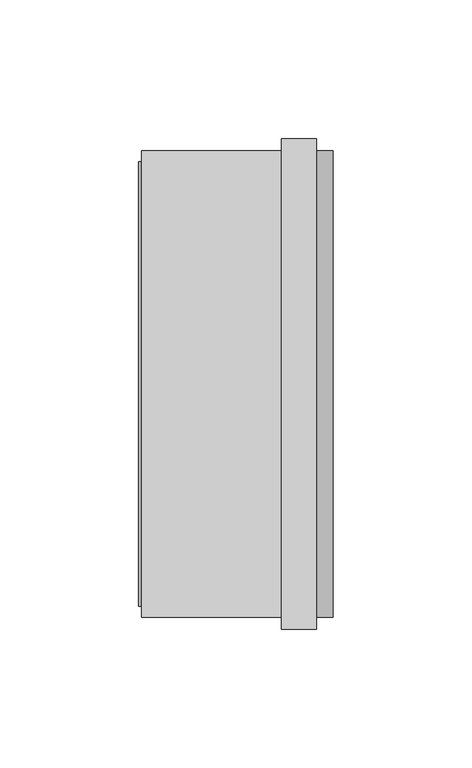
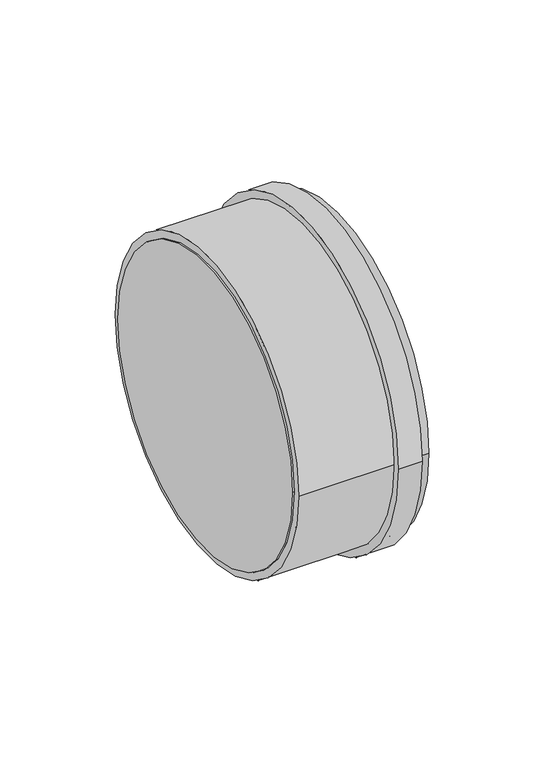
"""IFC4 building model written with IfcOpenShell, lengths in millimetres: pipe fitting geometry, Superdrain SKM-Plug : Superdrain SKM-Plug."""

from ifc_helpers import new_model, si_unit, point, frame, origin, origin_2d, place, context, project, spatial, polyline, circle_curve, trimmed, segment, composite_curve, outline, extrude, source, transform, mapped, element, save
from ifc_brep_helpers import plane_surface, cylinder_surface, revolved_surface, advanced_brep


def pipe_fitting_11ed9a3a(model_context):
    return source(origin(), model_context, "Body", "SolidModel", [
        extrude(outline(composite_curve([segment(trimmed(circle_curve(origin_2d(), 84.0), [point((84.0, 0.0))], [point((-84.0, 0.0))], False, "CARTESIAN"), True, "CONTINUOUS"), segment(trimmed(circle_curve(origin_2d(), 84.0), [point((-84.0, 0.0))], [point((84.0, 0.0))], False, "CARTESIAN"), True, "CONTINUOUS")], self_intersect=False), holes=[composite_curve([segment(trimmed(circle_curve(origin_2d(), 80.0), [point((80.0, 0.0))], [point((-80.0, 0.0))], True, "CARTESIAN"), True, "CONTINUOUS"), segment(trimmed(circle_curve(origin_2d(), 80.0), [point((-80.0, 0.0))], [point((80.0, 0.0))], True, "CARTESIAN"), True, "CONTINUOUS")], self_intersect=False)]), frame((0.0, 0.0, 0.0), z_axis=(1.0, 0.0, 0.0), x_axis=(0.0, 1.0, 0.0)), (0.0, 0.0, 1.0), 63.0),
        extrude(outline(composite_curve([segment(trimmed(circle_curve(origin_2d(), 88.2), [point((88.2, 0.0))], [point((-88.2, 0.0))], False, "CARTESIAN"), True, "CONTINUOUS"), segment(trimmed(circle_curve(origin_2d(), 88.2), [point((-88.2, 0.0))], [point((88.2, 0.0))], False, "CARTESIAN"), True, "CONTINUOUS")], self_intersect=False), holes=[composite_curve([segment(trimmed(circle_curve(origin_2d(), 80.0), [point((80.0, 0.0))], [point((-80.0, 0.0))], True, "CARTESIAN"), True, "CONTINUOUS"), segment(trimmed(circle_curve(origin_2d(), 80.0), [point((-80.0, 0.0))], [point((80.0, 0.0))], True, "CARTESIAN"), True, "CONTINUOUS")], self_intersect=False)]), frame((50.4, 0.0, 0.0), z_axis=(1.0, 0.0, 0.0), x_axis=(0.0, 1.0, 0.0)), (0.0, 0.0, 1.0), 12.6),
        extrude(outline(composite_curve([segment(trimmed(circle_curve(origin_2d(), 80.0), [point((80.0, 0.0))], [point((-80.0, 0.0))], False, "CARTESIAN"), True, "CONTINUOUS"), segment(trimmed(circle_curve(origin_2d(), 80.0), [point((-80.0, 0.0))], [point((80.0, 0.0))], False, "CARTESIAN"), True, "CONTINUOUS")], self_intersect=False)), frame((-1.0, 0.0, 0.0), z_axis=(1.0, 0.0, 0.0), x_axis=(0.0, 1.0, 0.0)), (0.0, 0.0, 1.0), 1.0),
        advanced_brep(
        [(0.0, -80.0, 0.0), (0.0, 80.0, 0.0), (0.0, 76.0, 0.0), (0.0, -76.0, 0.0), (69.0, -80.0, 0.0), (69.0, 80.0, 0.0), (63.0, -76.0, 0.0), (63.0, 76.0, 0.0)],
        [
            (0, 1, circle_curve(frame((0.0, 0.0, 0.0), z_axis=(-1.0, 0.0, 0.0), x_axis=(0.0, 1.0, 0.0)), 80.0)),
            (1, 0, circle_curve(frame((0.0, 0.0, 0.0), z_axis=(-1.0, 0.0, 0.0), x_axis=(0.0, 1.0, 0.0)), 80.0)),
            (2, 3, circle_curve(frame((0.0, 0.0, 0.0), z_axis=(1.0, 0.0, 0.0), x_axis=(0.0, 1.0, 0.0)), 76.0)),
            (3, 2, circle_curve(frame((0.0, 0.0, 0.0), z_axis=(1.0, 0.0, 0.0), x_axis=(0.0, 1.0, 0.0)), 76.0)),
            (4, 5, circle_curve(frame((69.0, 0.0, 0.0), z_axis=(1.0, 0.0, 0.0), x_axis=(0.0, 1.0, 0.0)), 80.0)),
            (5, 4, circle_curve(frame((69.0, 0.0, 0.0), z_axis=(1.0, 0.0, 0.0), x_axis=(0.0, 1.0, 0.0)), 80.0)),
            (0, 4),
            (5, 1),
            (6, 7, circle_curve(frame((63.0, 0.0, 0.0), z_axis=(-1.0, 0.0, 0.0), x_axis=(0.0, 1.0, 0.0)), 76.0)),
            (7, 6, circle_curve(frame((63.0, 0.0, 0.0), z_axis=(-1.0, 0.0, 0.0), x_axis=(0.0, 1.0, 0.0)), 76.0)),
            (6, 3),
            (2, 7),
        ],
        [
            plane_surface(frame((0.0, 0.0, 0.0), z_axis=(-1.0, 0.0, 0.0), x_axis=(0.0, 0.0, 1.0))),
            plane_surface(frame((69.0, 0.0, 0.0), z_axis=(1.0, 0.0, 0.0), x_axis=(0.0, 0.0, 1.0))),
            cylinder_surface(frame((0.0, 0.0, 0.0), z_axis=(-1.0, 0.0, 0.0), x_axis=(0.0, 1.0, 0.0)), 80.0),
            plane_surface(frame((63.0, 0.0, 0.0), z_axis=(-1.0, 0.0, 0.0), x_axis=(0.0, 0.0, 1.0))),
            revolved_surface(polyline([(0.0, 76.0, 0.0), (63.0, 76.0, 0.0)]), (-6.0, 0.0, 0.0), (-1.0, 0.0, 0.0)),
        ],
        [
            (0, [[1, 2], [3, 4]]),
            (1, [[5, 6]]),
            (2, [[-1, 7, -6, 8]]),
            (2, [[-2, -8, -5, -7]]),
            (3, [[9, 10]]),
            (4, [[-9, 11, -3, 12]]),
            (4, [[-10, -12, -4, -11]]),
        ],
    ),
        extrude(outline(composite_curve([segment(trimmed(circle_curve(origin_2d(), 84.0), [point((-84.0, 0.0))], [point((84.0, 0.0))], False, "CARTESIAN"), True, "CONTINUOUS"), segment(trimmed(circle_curve(origin_2d(), 84.0), [point((84.0, 0.0))], [point((-84.0, 0.0))], False, "CARTESIAN"), True, "CONTINUOUS")], self_intersect=False)), frame((63.0, 0.0, 0.0), z_axis=(1.0, 0.0, 0.0), x_axis=(0.0, 1.0, 0.0)), (0.0, 0.0, 1.0), 6.0),
    ])


if __name__ == "__main__":
    model = new_model("IFC4")
    model_context = context("Model", 3, world=origin())
    ifc_project = project(units=[si_unit("LENGTHUNIT", "METRE", prefix="MILLI")], contexts=[model_context])
    site = spatial("IfcSite", under=ifc_project)
    building = spatial("IfcBuilding", under=site)
    placement = place(None, origin())
    pipe_fitting_shape = pipe_fitting_11ed9a3a(model_context)
    element("IfcPipeFitting", 1, ObjectType="Superdrain SKM-Plug : Superdrain SKM-Plug", at=placement, inside=building, context=model_context, shape_type="MappedRepresentation", body=[
        mapped(pipe_fitting_shape, transform((0.0, 0.0, 0.0), x_axis=(1.0, 0.0, 0.0), y_axis=(0.0, 1.0, 0.0), z_axis=(0.0, 0.0, 1.0))),
    ])
    save(model, "model.ifc")
